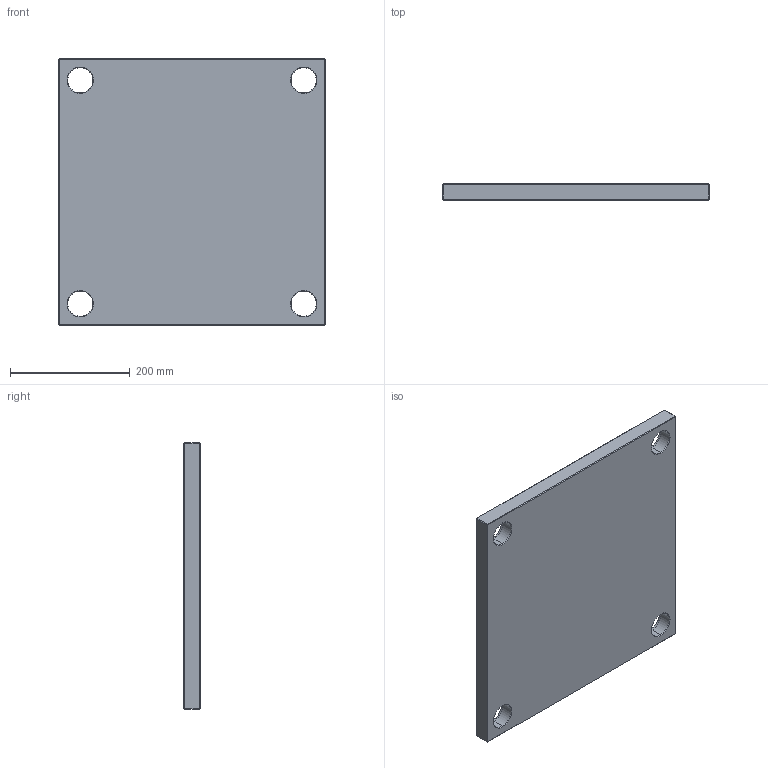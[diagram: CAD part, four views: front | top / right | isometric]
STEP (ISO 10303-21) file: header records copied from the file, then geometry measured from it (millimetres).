
FILE_DESCRIPTION (( 'STEP AP214' ), '1' );
FILE_NAME ('PC-446x446x27.STEP', '2020-04-21T17:34:54', ( 'August' ), ( '' ), 'SwSTEP 2.0', 'SolidWorks 2018', '' );
FILE_SCHEMA (( 'AUTOMOTIVE_DESIGN' ));
Length unit declared in the file: millimetre
Products named in the file (1): PC-446x446x27
Bounding box: 446 x 27 x 446 mm (x, y, z)
Volume: 5190211.8 mm3; surface area: 451144.1 mm2
Topology: 1 solids, 1 shells, 82 faces, 168 edges, 96 vertices
Faces by surface type: plane 34, cone 24, cylinder 24
Entity records: 2170 total; most frequent: DIRECTION 406, CARTESIAN_POINT 347, ORIENTED_EDGE 336, EDGE_CURVE 168, AXIS2_PLACEMENT_3D 155, EDGE_LOOP 98, VERTEX_POINT 96, VECTOR 96
